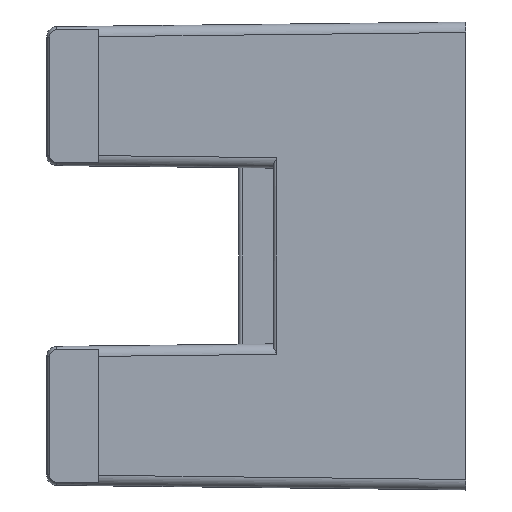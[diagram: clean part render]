
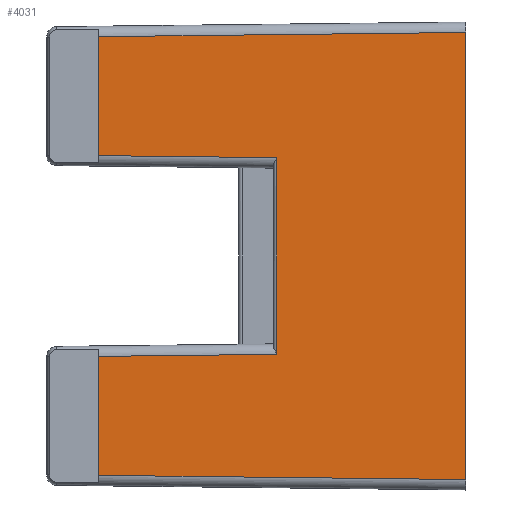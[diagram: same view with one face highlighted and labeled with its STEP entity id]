
A CAD part, left-side view. The second image highlights one B-rep face of the part: STEP entity #4031.
In plain terms, the highlighted planar face has unit normal (-1, 0.011, 0).
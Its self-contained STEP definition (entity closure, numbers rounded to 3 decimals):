
#51=DIRECTION('',(0.,0.,1.));
#52=VECTOR('',#51,12.8);
#53=CARTESIAN_POINT('',(0.,0.,-6.4));
#54=LINE('',#53,#52);
#1194=DIRECTION('',(0.,0.,-1.));
#1195=VECTOR('',#1194,3.407);
#1196=CARTESIAN_POINT('',(0.119,10.5,6.281));
#1197=LINE('',#1196,#1195);
#1198=DIRECTION('',(0.011,1.,0.011));
#1199=VECTOR('',#1198,5.1);
#1200=CARTESIAN_POINT('',(0.061,5.401,2.816));
#1201=LINE('',#1200,#1199);
#1202=DIRECTION('',(-0.011,-1.,0.011));
#1203=VECTOR('',#1202,10.501);
#1204=CARTESIAN_POINT('',(0.119,10.5,6.281));
#1205=LINE('',#1204,#1203);
#1206=DIRECTION('',(0.011,1.,0.011));
#1207=VECTOR('',#1206,10.501);
#1208=CARTESIAN_POINT('',(0.,0.,-6.4));
#1209=LINE('',#1208,#1207);
#1210=DIRECTION('',(-0.011,-1.,0.011));
#1211=VECTOR('',#1210,5.1);
#1212=CARTESIAN_POINT('',(0.119,10.5,-2.874));
#1213=LINE('',#1212,#1211);
#1214=DIRECTION('',(0.,0.,-1.));
#1215=VECTOR('',#1214,5.632);
#1216=CARTESIAN_POINT('',(0.061,5.401,2.816));
#1217=LINE('',#1216,#1215);
#1342=DIRECTION('',(0.,0.,-1.));
#1343=VECTOR('',#1342,3.407);
#1344=CARTESIAN_POINT('',(0.119,10.5,-2.874));
#1345=LINE('',#1344,#1343);
#1351=CARTESIAN_POINT('',(0.,0.,-6.4));
#1840=VERTEX_POINT('',#1351);
#1841=CARTESIAN_POINT('',(0.,0.,6.4));
#1842=VERTEX_POINT('',#1841);
#2137=CARTESIAN_POINT('',(0.119,10.5,6.281));
#2138=VERTEX_POINT('',#2137);
#2147=CARTESIAN_POINT('',(0.119,10.5,2.874));
#2148=VERTEX_POINT('',#2147);
#2149=CARTESIAN_POINT('',(0.061,5.401,2.816));
#2150=CARTESIAN_POINT('',(0.061,5.401,
-2.816));
#2151=VERTEX_POINT('',#2149);
#2152=VERTEX_POINT('',#2150);
#2153=CARTESIAN_POINT('',(0.119,10.5,-6.281));
#2154=VERTEX_POINT('',#2153);
#2155=CARTESIAN_POINT('',(0.119,10.5,-2.874));
#2156=VERTEX_POINT('',#2155);
#4011=CARTESIAN_POINT('',(0.,0.,-7.959));
#4012=DIRECTION('',(-1.,0.011,0.));
#4013=DIRECTION('',(0.,0.,-1.));
#4014=AXIS2_PLACEMENT_3D('',#4011,#4012,#4013);
#4015=PLANE('',#4014);
#4017=ORIENTED_EDGE('',*,*,#4016,.F.);
#4019=ORIENTED_EDGE('',*,*,#4018,.T.);
#4020=ORIENTED_EDGE('',*,*,#4004,.F.);
#4021=ORIENTED_EDGE('',*,*,#3971,.T.);
#4022=ORIENTED_EDGE('',*,*,#2356,.F.);
#4024=ORIENTED_EDGE('',*,*,#4023,.T.);
#4026=ORIENTED_EDGE('',*,*,#4025,.F.);
#4028=ORIENTED_EDGE('',*,*,#4027,.T.);
#4029=EDGE_LOOP('',(#4017,#4019,#4020,#4021,#4022,#4024,#4026,#4028));
#4030=FACE_OUTER_BOUND('',#4029,.F.);
#2356=EDGE_CURVE('',#1840,#1842,#54,.T.);
#3971=EDGE_CURVE('',#2138,#1842,#1205,.T.);
#4004=EDGE_CURVE('',#2138,#2148,#1197,.T.);
#4016=EDGE_CURVE('',#2151,#2152,#1217,.T.);
#4018=EDGE_CURVE('',#2151,#2148,#1201,.T.);
#4023=EDGE_CURVE('',#1840,#2154,#1209,.T.);
#4025=EDGE_CURVE('',#2156,#2154,#1345,.T.);
#4027=EDGE_CURVE('',#2156,#2152,#1213,.T.);
#4031=ADVANCED_FACE('',(#4030),#4015,.T.);
